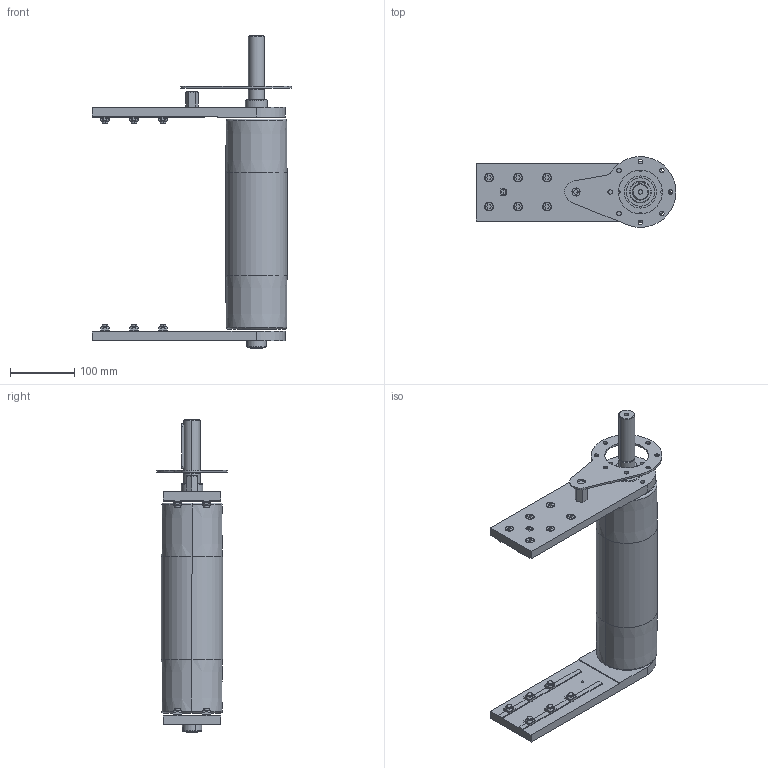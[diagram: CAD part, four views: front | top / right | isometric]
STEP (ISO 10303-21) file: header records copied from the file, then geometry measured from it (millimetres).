
FILE_DESCRIPTION (( 'STEP AP203' ), '1' );
FILE_NAME ('084.095.KD.49.300.STEP', '2015-11-12T09:59:24', ( '' ), ( '' ), 'SwSTEP 2.0', 'SolidWorks 2012', '' );
FILE_SCHEMA (( 'CONFIG_CONTROL_DESIGN' ));
Length unit declared in the file: millimetre
Products named in the file (1): 084.095.KD.49.300
Bounding box: 310 x 110 x 484.5 mm (x, y, z)
Surface area: 299834.6 mm2 (no closed solid volume)
Topology: 0 solids, 50 shells, 549 faces, 1649 edges, 1128 vertices
Faces by surface type: plane 304, cylinder 127, torus 52, cone 40, bspline 24, sphere 2
Entity records: 19623 total; most frequent: CARTESIAN_POINT 4847, DIRECTION 3095, ORIENTED_EDGE 2752, EDGE_CURVE 1645, VERTEX_POINT 1126, AXIS2_PLACEMENT_3D 1124, VECTOR 847, LINE 847
